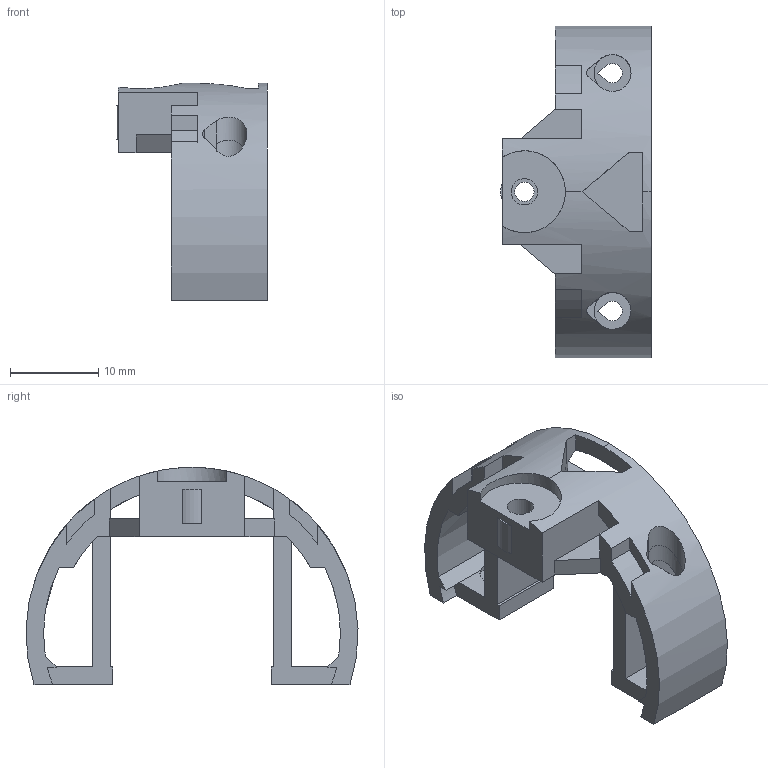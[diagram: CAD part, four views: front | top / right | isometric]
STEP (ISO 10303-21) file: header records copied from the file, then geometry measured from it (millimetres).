
FILE_DESCRIPTION(('SkyG Speed 90B - revision C6B-24 - 2026-10-17','HL2-hatch-lip-rear'),'2;1');
FILE_NAME('HL2-hatch-lip-rear_C6B-24','2026-10-17T19:57:43',('Author'),( 'Open CASCADE'),'Open CASCADE STEP processor 7.9','Open CASCADE 7.9' ,'Unknown');
FILE_SCHEMA(('AUTOMOTIVE_DESIGN { 1 0 10303 214 1 1 1 1 }'));
Length unit declared in the file: millimetre
Products named in the file (1): HL2-hatch-lip-rear C6B-24
Bounding box: 17.09 x 37.69 x 24.65 mm (x, y, z)
Volume: 3322.4 mm3; surface area: 3536.4 mm2
Topology: 1 solids, 1 shells, 92 faces, 292 edges, 195 vertices
Faces by surface type: plane 65, cylinder 26, cone 1
Full cylindrical faces by diameter (mm): 2.2 x1, 3 x1, 4.2 x2
Entity records: 9760 total; most frequent: CARTESIAN_POINT 4247, DIRECTION 947, ORIENTED_EDGE 584, PCURVE 584, DEFINITIONAL_REPRESENTATION 584, LINE 518, VECTOR 518, EDGE_CURVE 292
